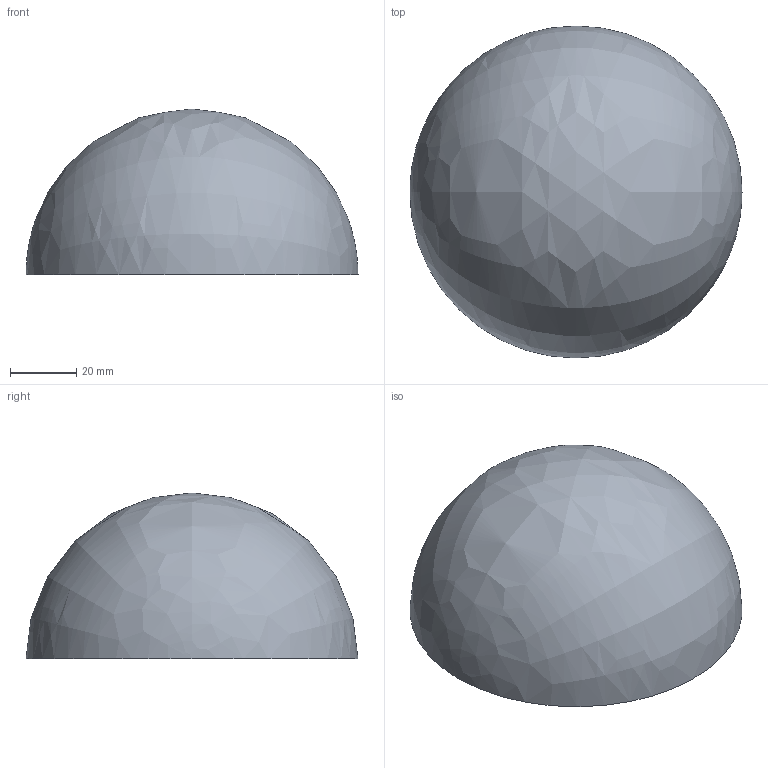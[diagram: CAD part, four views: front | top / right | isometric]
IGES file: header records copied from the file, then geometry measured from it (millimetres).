
Start section: SolidWorks IGES file using NURBS representation for surfaces
Global section: file name: C:\Documents and Settings\Keigo-Takasugi\desktop00000\Part4.IGS; native system: SolidWorks 2007; preprocessor: SolidWorks 2007; author: Keigo-Takasugi; date: 100201.115639; units: millimetre
Bounding box: 100 x 100 x 50 mm (x, y, z)
Surface area: 15720.9 mm2 (no closed solid volume)
Topology: 0 solids, 0 shells, 1 faces, 6 edges, 6 vertices
Faces by surface type: bspline 1
